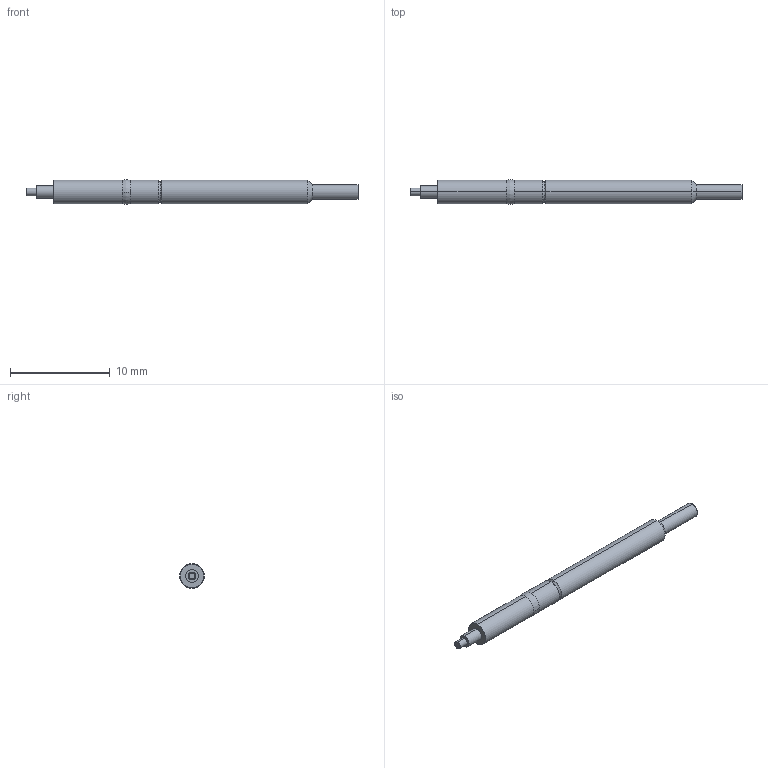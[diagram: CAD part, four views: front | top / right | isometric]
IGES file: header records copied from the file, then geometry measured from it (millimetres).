
Start section: SolidWorks IGES file using analytic representation for surfaces
Global section: file name: Z:\probe solid model mockups\Solidworks models\IGES Files\SPL-03C-090\SPL-03C-090 Full.IGS; native system: SolidWorks 2006 by SolidWorks Corporation; preprocessor: SolidWorks 2006 by SolidWorks Corporation; author: tsakatani; date: 071221.103338; units: inch
Bounding box: 33.27 x 2.49 x 2.45 mm (x, y, z)
Surface area: 231.2 mm2 (no closed solid volume)
Topology: 0 solids, 0 shells, 27 faces, 240 edges, 240 vertices
Faces by surface type: revolution 18, bspline 9
